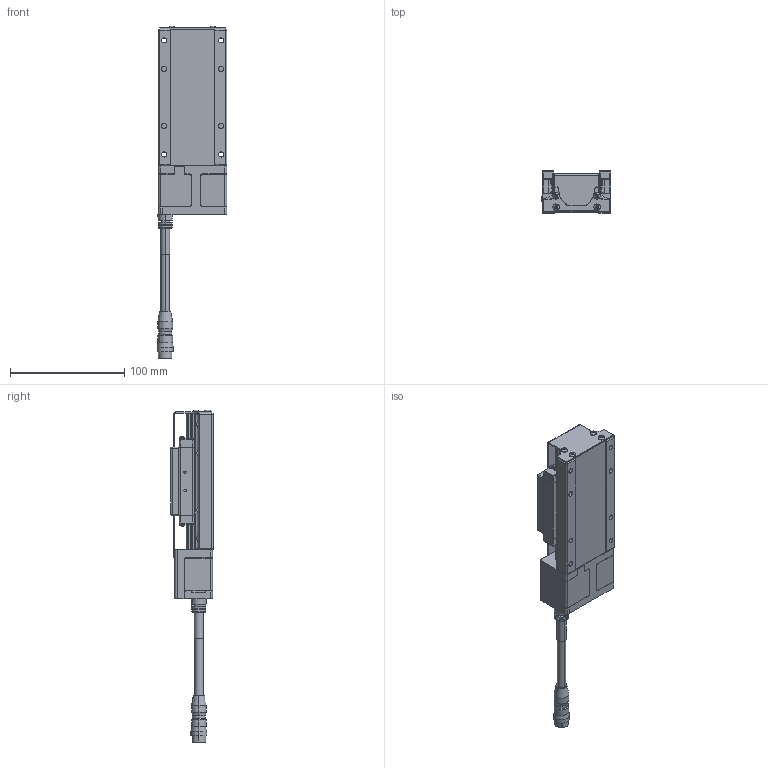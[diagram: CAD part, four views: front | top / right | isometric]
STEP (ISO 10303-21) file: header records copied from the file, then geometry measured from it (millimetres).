
FILE_DESCRIPTION (( 'STEP AP203' ), '1' );
FILE_NAME ('CXC6030-S2?N(µL°¨¹F).S', '2024-01-05T03:42:32', ( '' ), ( '' ), 'SwSTEP 2.0', 'SolidWorks 2019', '' );
FILE_SCHEMA (( 'CONFIG_CONTROL_DESIGN' ));
Length unit declared in the file: millimetre
Products named in the file (9): SG02B005_SCM435(化鎳); SD03B006_SD03B006-SCM435(化鎳); HR10A-10J-12P_帶線示意; Group2^CXN6030-S2?N(28框無馬達)_defeature_GMT; Group1^CXC6030-S2?N(28框無馬達)_defeature_GMT; CXC6030-S2OPAN-303_30; CXC60-102-10; CXC6030-S2?N(無馬達); SC04B006_SUS304
Assembly tree (16 placements, depth 2):
  CXC6030-S2?N(無馬達)
    Group1^CXC6030-S2?N(28框無馬達)_defeature_GMT
    Group2^CXN6030-S2?N(28框無馬達)_defeature_GMT
    CXC6030-S2OPAN-303_30
    CXC60-102-10  x2
    SC04B006_SUS304  x4
    SG02B005_SCM435(化鎳)  x2
    SD03B006_SD03B006-SCM435(化鎳)  x4
    HR10A-10J-12P_帶線示意
Bounding box: 61 x 37 x 291.15 mm (x, y, z)
Volume: 54073.6 mm3; surface area: 104619.2 mm2
Topology: 44 solids, 46 shells, 4009 faces, 10012 edges, 6014 vertices
Faces by surface type: plane 1345, cylinder 1256, cone 693, torus 318, bspline 205, sphere 192
Entity records: 115899 total; most frequent: CARTESIAN_POINT 28305, DIRECTION 19048, ORIENTED_EDGE 17750, EDGE_CURVE 8875, AXIS2_PLACEMENT_3D 7302, VERTEX_POINT 5417, LINE 4444, VECTOR 4444
